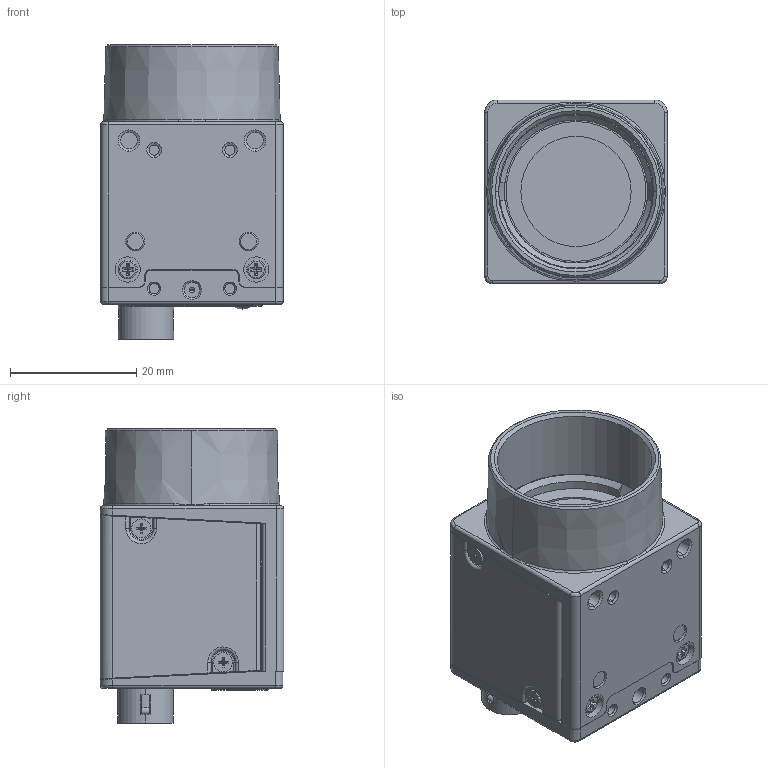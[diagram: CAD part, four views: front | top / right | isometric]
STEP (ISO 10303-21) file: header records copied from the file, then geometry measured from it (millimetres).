
FILE_DESCRIPTION((''),'2;1');
FILE_NAME('222222222222','2021-12-14T',('21511'),(''),'PRO/ENGINEER BY PARAMETRIC TECHNOLOGY CORPORATION, 2015280','PRO/ENGINEER BY PARAMETRIC TECHNOLOGY CORPORATION, 2015280','');
FILE_SCHEMA(('CONFIG_CONTROL_DESIGN'));
Products named in the file (1): 222222222222
Bounding box: 29 x 29.13 x 46.7 mm (x, y, z)
Volume: 21869.3 mm3; surface area: 14650 mm2
Topology: 1 solids, 10 shells, 1476 faces, 4131 edges, 2682 vertices
Faces by surface type: plane 626, cylinder 477, bspline 154, cone 120, torus 71, extrusion 25, sphere 3
Entity records: 54111 total; most frequent: CARTESIAN_POINT 16327, ORIENTED_EDGE 8244, DIRECTION 7431, EDGE_CURVE 4122, VERTEX_POINT 2682, AXIS2_PLACEMENT_3D 2540, VECTOR 2351, LINE 2326
